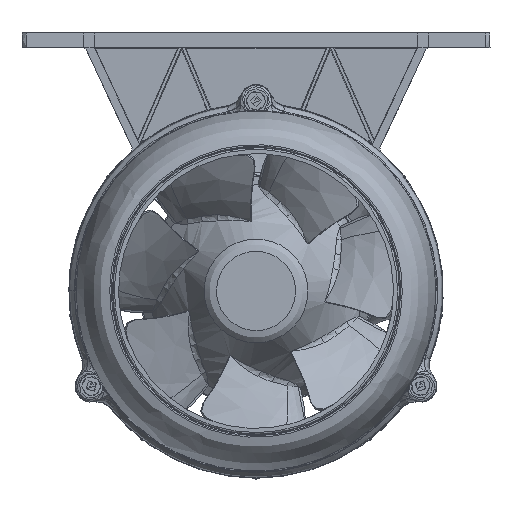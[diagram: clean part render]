
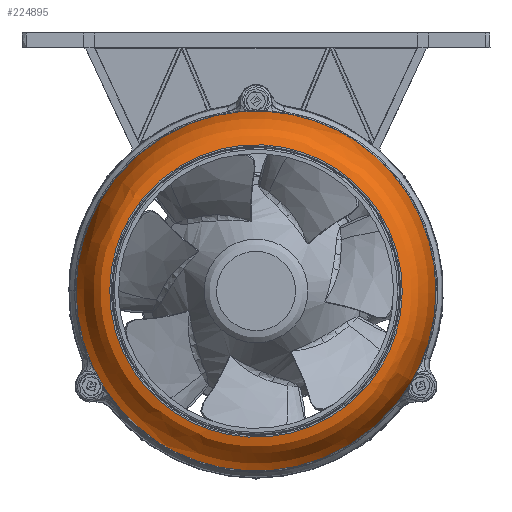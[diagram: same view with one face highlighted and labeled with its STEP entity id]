
A CAD part, front view. The second image highlights one B-rep face of the part: STEP entity #224895.
In plain terms, the highlighted free-form (B-spline) face has degree [2, 3] with [9, 6] control points.
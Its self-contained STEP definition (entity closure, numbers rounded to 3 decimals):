
#223389 = CARTESIAN_POINT ('', (-793.261, -3.928, 30.75));
#223390 = VERTEX_POINT ('', #223389);
#223396 = CARTESIAN_POINT ('', (-686.739, -3.928, -30.75));
#223397 = VERTEX_POINT ('', #223396);
#223398 = CARTESIAN_POINT ('', (-793.261, -3.928, 30.75));
#223399 = CARTESIAN_POINT ('', (-762.511, -3.928, 84.011));
#223400 = CARTESIAN_POINT ('', (-709.25, -3.928, 53.261));
#223401 = CARTESIAN_POINT ('', (-655.989, -3.928, 22.511));
#223402 = CARTESIAN_POINT ('', (-686.739, -3.928, -30.75));
#223403 = (
   BOUNDED_CURVE ()
   B_SPLINE_CURVE (2, (#223398, #223399, #223400, #223401, #223402), .UNSPECIFIED., .F., .U.)
   B_SPLINE_CURVE_WITH_KNOTS ((3, 2, 3), (0., 90., 180.), .UNSPECIFIED.)
   CURVE ()
   GEOMETRIC_REPRESENTATION_ITEM ()
   RATIONAL_B_SPLINE_CURVE ((1., 0.707, 1., 0.707, 1.))
   REPRESENTATION_ITEM ('')
);
#223404 = EDGE_CURVE ('', #223390, #223397, #223403, .T.);
#223406 = CARTESIAN_POINT ('', (-686.739, -3.928, -30.75));
#223407 = CARTESIAN_POINT ('', (-717.489, -3.928, -84.011));
#223408 = CARTESIAN_POINT ('', (-770.75, -3.928, -53.261));
#223409 = CARTESIAN_POINT ('', (-824.011, -3.928, -22.511));
#223410 = CARTESIAN_POINT ('', (-793.261, -3.928, 30.75));
#223411 = (
   BOUNDED_CURVE ()
   B_SPLINE_CURVE (2, (#223406, #223407, #223408, #223409, #223410), .UNSPECIFIED., .F., .U.)
   B_SPLINE_CURVE_WITH_KNOTS ((3, 2, 3), (180., 270., 360.), .UNSPECIFIED.)
   CURVE ()
   GEOMETRIC_REPRESENTATION_ITEM ()
   RATIONAL_B_SPLINE_CURVE ((1., 0.707, 1., 0.707, 1.))
   REPRESENTATION_ITEM ('')
);
#223412 = EDGE_CURVE ('', #223397, #223390, #223411, .T.);
#223579 = CARTESIAN_POINT ('', (-783.306, -25.928, 25.003));
#223580 = VERTEX_POINT ('', #223579);
#223581 = CARTESIAN_POINT ('', (-696.694, -25.928, -25.003));
#223582 = VERTEX_POINT ('', #223581);
#223583 = CARTESIAN_POINT ('', (-783.306, -25.928, 25.003));
#223584 = CARTESIAN_POINT ('', (-758.303, -25.928, 68.308));
#223585 = CARTESIAN_POINT ('', (-714.997, -25.928, 43.306));
#223586 = CARTESIAN_POINT ('', (-671.692, -25.928, 18.303));
#223587 = CARTESIAN_POINT ('', (-696.694, -25.928, -25.003));
#223588 = (
   BOUNDED_CURVE ()
   B_SPLINE_CURVE (2, (#223583, #223584, #223585, #223586, #223587), .UNSPECIFIED., .F., .U.)
   B_SPLINE_CURVE_WITH_KNOTS ((3, 2, 3), (0., 90., 180.), .UNSPECIFIED.)
   CURVE ()
   GEOMETRIC_REPRESENTATION_ITEM ()
   RATIONAL_B_SPLINE_CURVE ((1., 0.707, 1., 0.707, 1.))
   REPRESENTATION_ITEM ('')
);
#223589 = EDGE_CURVE ('', #223580, #223582, #223588, .T.);
#223591 = CARTESIAN_POINT ('', (-696.694, -25.928, -25.003));
#223592 = CARTESIAN_POINT ('', (-721.697, -25.928, -68.308));
#223593 = CARTESIAN_POINT ('', (-765.003, -25.928, -43.306));
#223594 = CARTESIAN_POINT ('', (-808.308, -25.928, -18.303));
#223595 = CARTESIAN_POINT ('', (-783.306, -25.928, 25.003));
#223596 = (
   BOUNDED_CURVE ()
   B_SPLINE_CURVE (2, (#223591, #223592, #223593, #223594, #223595), .UNSPECIFIED., .F., .U.)
   B_SPLINE_CURVE_WITH_KNOTS ((3, 2, 3), (180., 270., 360.), .UNSPECIFIED.)
   CURVE ()
   GEOMETRIC_REPRESENTATION_ITEM ()
   RATIONAL_B_SPLINE_CURVE ((1., 0.707, 1., 0.707, 1.))
   REPRESENTATION_ITEM ('')
);
#223597 = EDGE_CURVE ('', #223582, #223580, #223596, .T.);
#224824 = CARTESIAN_POINT ('', (-686.739, -3.928, -30.75));
#224825 = CARTESIAN_POINT ('', (-686.753, -5.784, -30.742));
#224826 = CARTESIAN_POINT ('', (-686.79, -10.553, -30.721));
#224827 = CARTESIAN_POINT ('', (-689.524, -18.076, -29.143));
#224828 = CARTESIAN_POINT ('', (-692.998, -25.928, -27.136));
#224829 = CARTESIAN_POINT ('', (-696.694, -25.928, -25.003));
#224830 = B_SPLINE_CURVE_WITH_KNOTS ('', 3, (#224824, #224825, #224826, #224827, #224828, #224829), .UNSPECIFIED., .F., .U., (4, 1, 1, 4), (0., 0.212, 0.546, 1.), .UNSPECIFIED.);
#224831 = EDGE_CURVE ('', #223397, #223582, #224830, .T.);
#224832 = ORIENTED_EDGE ('', *, *, #224831, .T.);
#224833 = ORIENTED_EDGE ('', *, *, #223597, .T.);
#224834 = ORIENTED_EDGE ('', *, *, #223589, .T.);
#224835 = ORIENTED_EDGE ('', *, *, #224831, .F.);
#224836 = ORIENTED_EDGE ('', *, *, #223404, .F.);
#224837 = ORIENTED_EDGE ('', *, *, #223412, .F.);
#224838 = EDGE_LOOP ('', (#224832, #224833, #224834, #224835, #224836, #224837));
#224839 = FACE_OUTER_BOUND ('', #224838, .T.);
#224840 = CARTESIAN_POINT ('', (-696.694, -25.928, -25.003));
#224841 = CARTESIAN_POINT ('', (-692.998, -25.928, -27.136));
#224842 = CARTESIAN_POINT ('', (-689.524, -18.076, -29.143));
#224843 = CARTESIAN_POINT ('', (-686.79, -10.553, -30.721));
#224844 = CARTESIAN_POINT ('', (-686.753, -5.784, -30.742));
#224845 = CARTESIAN_POINT ('', (-686.739, -3.928, -30.75));
#224846 = CARTESIAN_POINT ('', (-721.697, -25.928, -68.308));
#224847 = CARTESIAN_POINT ('', (-720.135, -25.928, -74.138));
#224848 = CARTESIAN_POINT ('', (-718.666, -18.076, -79.619));
#224849 = CARTESIAN_POINT ('', (-717.511, -10.553, -83.932));
#224850 = CARTESIAN_POINT ('', (-717.495, -5.784, -83.988));
#224851 = CARTESIAN_POINT ('', (-717.489, -3.928, -84.011));
#224852 = CARTESIAN_POINT ('', (-765.003, -25.928, -43.306));
#224853 = CARTESIAN_POINT ('', (-767.136, -25.928, -47.002));
#224854 = CARTESIAN_POINT ('', (-769.143, -18.076, -50.476));
#224855 = CARTESIAN_POINT ('', (-770.721, -10.553, -53.21));
#224856 = CARTESIAN_POINT ('', (-770.742, -5.784, -53.247));
#224857 = CARTESIAN_POINT ('', (-770.75, -3.928, -53.261));
#224858 = CARTESIAN_POINT ('', (-808.308, -25.928, -18.303));
#224859 = CARTESIAN_POINT ('', (-814.138, -25.928, -19.865));
#224860 = CARTESIAN_POINT ('', (-819.619, -18.076, -21.334));
#224861 = CARTESIAN_POINT ('', (-823.932, -10.553, -22.489));
#224862 = CARTESIAN_POINT ('', (-823.988, -5.784, -22.505));
#224863 = CARTESIAN_POINT ('', (-824.011, -3.928, -22.511));
#224864 = CARTESIAN_POINT ('', (-783.306, -25.928, 25.003));
#224865 = CARTESIAN_POINT ('', (-787.002, -25.928, 27.136));
#224866 = CARTESIAN_POINT ('', (-790.476, -18.076, 29.143));
#224867 = CARTESIAN_POINT ('', (-793.21, -10.553, 30.721));
#224868 = CARTESIAN_POINT ('', (-793.247, -5.784, 30.742));
#224869 = CARTESIAN_POINT ('', (-793.261, -3.928, 30.75));
#224870 = CARTESIAN_POINT ('', (-758.303, -25.928, 68.308));
#224871 = CARTESIAN_POINT ('', (-759.865, -25.928, 74.138));
#224872 = CARTESIAN_POINT ('', (-761.334, -18.076, 79.619));
#224873 = CARTESIAN_POINT ('', (-762.489, -10.553, 83.932));
#224874 = CARTESIAN_POINT ('', (-762.505, -5.784, 83.988));
#224875 = CARTESIAN_POINT ('', (-762.511, -3.928, 84.011));
#224876 = CARTESIAN_POINT ('', (-714.997, -25.928, 43.306));
#224877 = CARTESIAN_POINT ('', (-712.864, -25.928, 47.002));
#224878 = CARTESIAN_POINT ('', (-710.857, -18.076, 50.476));
#224879 = CARTESIAN_POINT ('', (-709.279, -10.553, 53.21));
#224880 = CARTESIAN_POINT ('', (-709.258, -5.784, 53.247));
#224881 = CARTESIAN_POINT ('', (-709.25, -3.928, 53.261));
#224882 = CARTESIAN_POINT ('', (-671.692, -25.928, 18.303));
#224883 = CARTESIAN_POINT ('', (-665.862, -25.928, 19.865));
#224884 = CARTESIAN_POINT ('', (-660.381, -18.076, 21.334));
#224885 = CARTESIAN_POINT ('', (-656.068, -10.553, 22.489));
#224886 = CARTESIAN_POINT ('', (-656.012, -5.784, 22.505));
#224887 = CARTESIAN_POINT ('', (-655.989, -3.928, 22.511));
#224888 = CARTESIAN_POINT ('', (-696.694, -25.928, -25.003));
#224889 = CARTESIAN_POINT ('', (-692.998, -25.928, -27.136));
#224890 = CARTESIAN_POINT ('', (-689.524, -18.076, -29.143));
#224891 = CARTESIAN_POINT ('', (-686.79, -10.553, -30.721));
#224892 = CARTESIAN_POINT ('', (-686.753, -5.784, -30.742));
#224893 = CARTESIAN_POINT ('', (-686.739, -3.928, -30.75));
#224894 = (
   BOUNDED_SURFACE ()
   B_SPLINE_SURFACE (2, 3, ((#224840, #224841, #224842, #224843, #224844, #224845), (#224846, #224847, #224848, #224849, #224850, #224851), (#224852, #224853, #224854, #224855, #224856, #224857), (#224858, #224859, #224860, #224861, #224862, #224863), (#224864, #224865, #224866, #224867, #224868, #224869), (#224870, #224871, #224872, #224873, #224874, #224875), (#224876, #224877, #224878, #224879, #224880, #224881), (#224882, #224883, #224884, #224885, #224886, #224887), (#224888, #224889, #224890, #224891, #224892, #224893)), .UNSPECIFIED., .T., .F., .U.)
   B_SPLINE_SURFACE_WITH_KNOTS ((3, 2, 2, 2, 3), (4, 1, 1, 4), (0., 90., 180., 270., 360.), (0., 0.454, 0.788, 1.), .UNSPECIFIED.)
   SURFACE ()
   GEOMETRIC_REPRESENTATION_ITEM ()
   RATIONAL_B_SPLINE_SURFACE (((1., 1., 1., 1., 1., 1.), (0.707, 0.707, 0.707, 0.707, 0.707, 0.707), (1., 1., 1., 1., 1., 1.), (0.707, 0.707, 0.707, 0.707, 0.707, 0.707), (1., 1., 1., 1., 1., 1.), (0.707, 0.707, 0.707, 0.707, 0.707, 0.707), (1., 1., 1., 1., 1., 1.), (0.707, 0.707, 0.707, 0.707, 0.707, 0.707), (1., 1., 1., 1., 1., 1.)))
   REPRESENTATION_ITEM ('')
);
#224895 = ADVANCED_FACE ('', (#224839), #224894, .T.);
